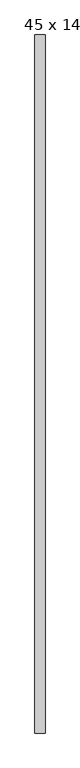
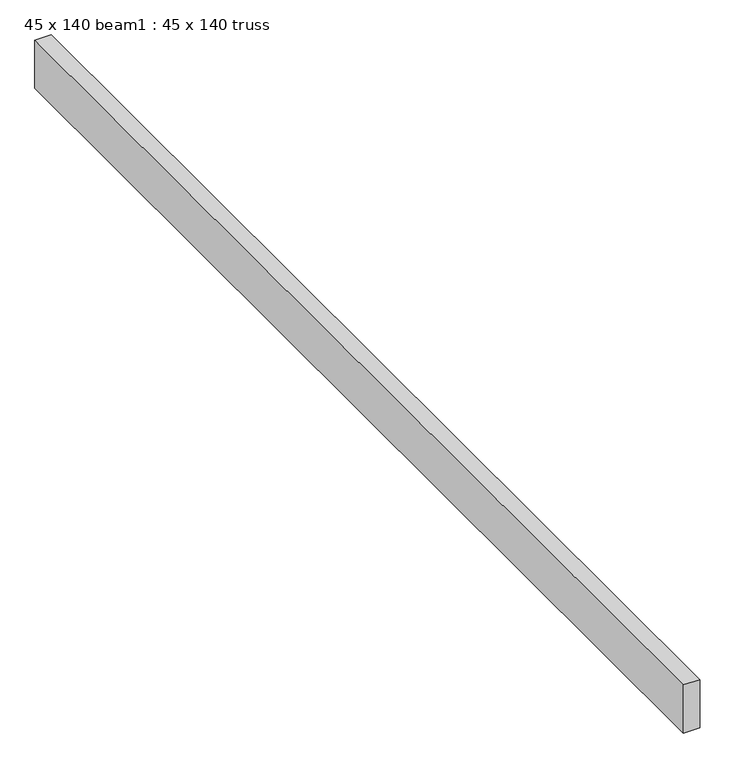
"""IFC4 building model written with IfcOpenShell, lengths in millimetres: proxy geometry, 45 x 140 beam1 : 45 x 140 truss."""

from ifc_helpers import new_model, si_unit, frame, origin, place, context, project, spatial, polyline, outline, extrude, source, transform, mapped, element, save


def proxy_45_x_140_beam1_45_x_140_truss_8a47d5ee(model_context):
    return source(origin(), model_context, "Body", "SweptSolid", [
        extrude(outline(polyline([(-27372.5216852, -23329.5415677), (-27417.5216852, -23329.5415677), (-27417.5216852, -20239.5415677), (-27372.5216852, -20239.5415677), (-27372.5216852, -23329.5415677)])), frame((0.0, 0.0, 3644.2452806), z_axis=(0.0, 0.0, 1.0), x_axis=(1.0, 0.0, 0.0)), (0.0, 0.0, 1.0), 140.0),
    ])


if __name__ == "__main__":
    model = new_model("IFC4")
    model_context = context("Model", 3, world=origin())
    ifc_project = project(units=[si_unit("LENGTHUNIT", "METRE", prefix="MILLI")], contexts=[model_context])
    site = spatial("IfcSite", under=ifc_project)
    building = spatial("IfcBuilding", under=site)
    placement = place(None, origin())
    proxy_45_x_140_beam1_45_x_140_truss_shape = proxy_45_x_140_beam1_45_x_140_truss_8a47d5ee(model_context)
    element("IfcBuildingElementProxy", 1, Name="45 x 140 beam1 : 45 x 140 truss", ObjectType="45 x 140 beam1 : 45 x 140 truss", at=placement, inside=building, context=model_context, shape_type="MappedRepresentation", body=[
        mapped(proxy_45_x_140_beam1_45_x_140_truss_shape, transform((0.0, 0.0, 0.0), x_axis=(1.0, 0.0, 0.0), y_axis=(0.0, 1.0, 0.0), z_axis=(0.0, 0.0, 1.0))),
    ])
    save(model, "model.ifc")
